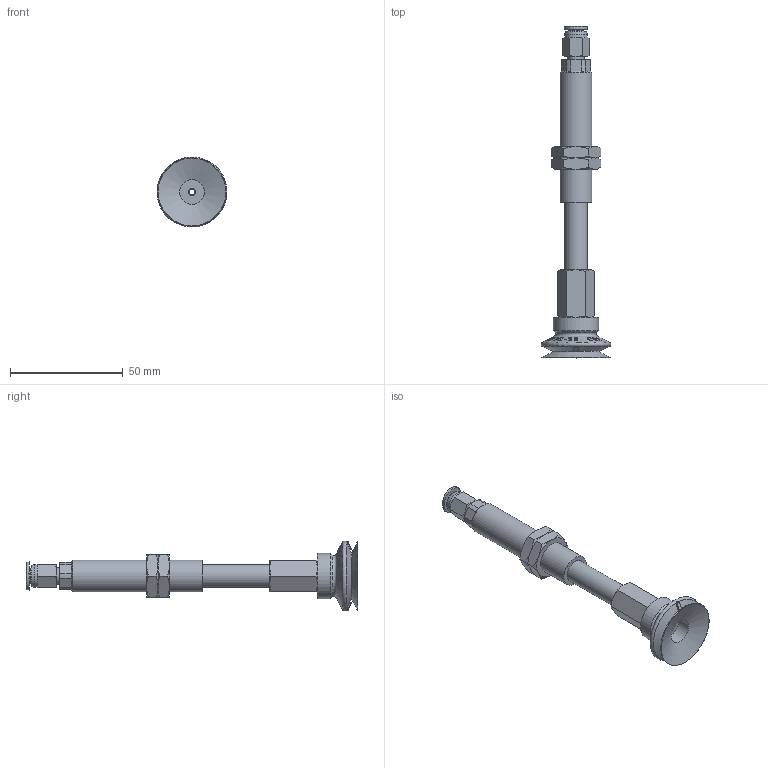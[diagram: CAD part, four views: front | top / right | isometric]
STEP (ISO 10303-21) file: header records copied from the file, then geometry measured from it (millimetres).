
FILE_DESCRIPTION(('STEP AP214'),'1');
FILE_NAME('-O.stp','2026-01-21T05:38:19',(' '),(' '),'Spatial InterOp 3D',' ',' ');
FILE_SCHEMA(('AUTOMOTIVE_DESIGN { 1 0 10303 214 1 1 1 1 }'));
Length unit declared in the file: millimetre
Products named in the file (8): BNABPJTS-30-30-※-O; PC-C_06-M5; ADAPTER; NAPJTS-30-30-MBODY; BPJG-30-※; Adapter-30-NAPJ; NUT-NAPJ-30-30-s; NAPJTS-30-30-FBODY
Assembly tree (8 placements, depth 2):
  BNABPJTS-30-30-※-O
    PC-C_06-M5
    ADAPTER
    NAPJTS-30-30-MBODY
    BPJG-30-※
    Adapter-30-NAPJ
    NUT-NAPJ-30-30-s  x2
    NAPJTS-30-30-FBODY
Bounding box: 30.99 x 146.98 x 30.99 mm (x, y, z)
Volume: 22296.7 mm3; surface area: 17175.1 mm2
Topology: 7 solids, 10 shells, 821 faces, 2244 edges, 1469 vertices
Faces by surface type: plane 684, cone 83, cylinder 38, torus 9, bspline 4, revolution 3
Full cylindrical faces by diameter (mm): 3 x3, 4 x2, 4.134 x1, 4.917 x1, 5 x1, 5.8 x1, 6 x1, 7 x1, 7.4 x1, 8.2 x1, 10 x3, 10.8 x1, 11 x1, 13.188 x2, 14 x1, 20 x1
Entity records: 32732 total; most frequent: CARTESIAN_POINT 8229, ORIENTED_EDGE 4286, DIRECTION 2772, EDGE_CURVE 2145, VERTEX_POINT 1434, B_SPLINE_CURVE_WITH_KNOTS 1093, AXIS2_PLACEMENT_3D 939, LINE 891
